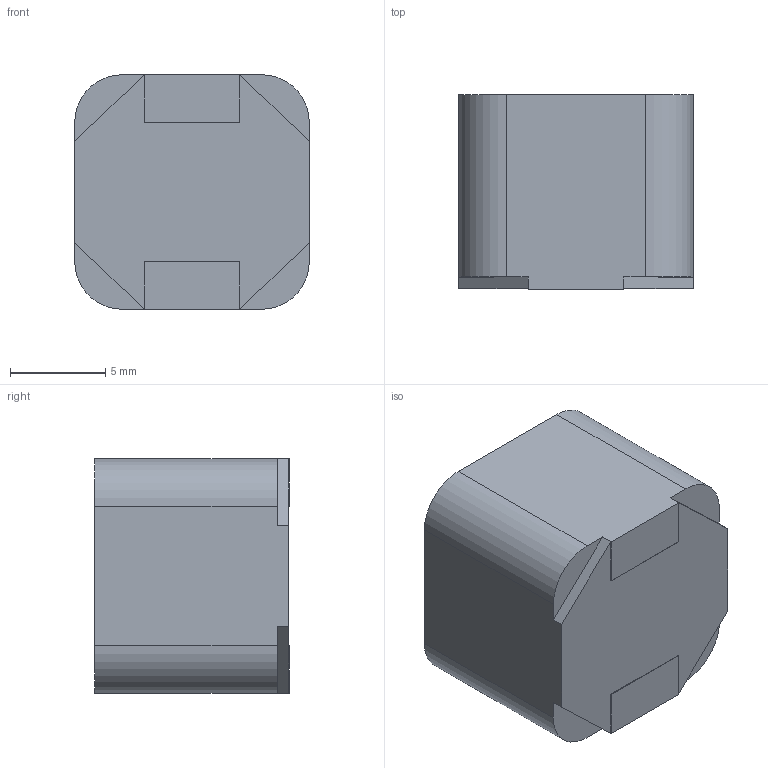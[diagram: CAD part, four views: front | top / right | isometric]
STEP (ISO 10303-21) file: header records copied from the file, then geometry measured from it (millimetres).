
FILE_DESCRIPTION (( 'STEP AP214' ), '1' );
FILE_NAME ('Coilcraft-MSS1210.STEP', '2012-08-07T23:12:59', ( 'sysAdmin' ), ( 'SolidWorks' ), 'SwSTEP 2.0', 'SolidWorks 2012', '' );
FILE_SCHEMA (( 'AUTOMOTIVE_DESIGN' ));
Length unit declared in the file: millimetre
Products named in the file (1): Coilcraft-MSS1210
Bounding box: 12.3 x 10.2 x 12.3 mm (x, y, z)
Volume: 1469.7 mm3; surface area: 810.6 mm2
Topology: 1 solids, 1 shells, 256 faces, 719 edges, 478 vertices
Faces by surface type: bspline 183, plane 65, cylinder 8
Entity records: 12491 total; most frequent: CARTESIAN_POINT 4289, ORIENTED_EDGE 1438, EDGE_CURVE 719, DIRECTION 517, VERTEX_POINT 478, B_SPLINE_CURVE_WITH_KNOTS 366, VECTOR 337, LINE 337
